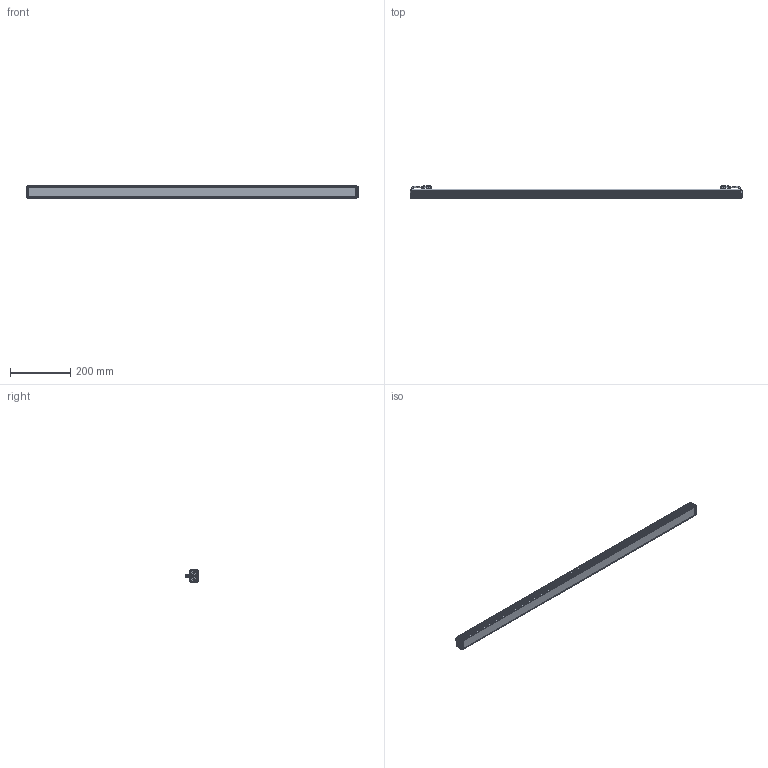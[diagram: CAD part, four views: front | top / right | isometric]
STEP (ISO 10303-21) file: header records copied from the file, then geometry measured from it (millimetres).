
FILE_DESCRIPTION((''),'2;1');
FILE_NAME('MV-LLDS-H-1200-40-W-PL_ASM','2024-04-08T14:39:18',('huguozhe'),(''),'CREO PARAMETRIC BY PTC INC, 2020044','CREO PARAMETRIC BY PTC INC, 2020044','');
FILE_SCHEMA(('AUTOMOTIVE_DESIGN { 1 0 10303 214 1 1 1 1 }'));
Length unit declared in the file: millimetre
Products named in the file (15): DE-15-001245; DE-15-001244_ASM; DE-15-000532; DE-15-000531_ASM; DE-12-002350; TIP-M3X4-4_5X5-SO-ET-07061033; DE-12-002350_ASM; DE-12-001621; SC-KM2X6-BNI-GB819; XIANLAN_HEAD; CABLE_HEAD; CABLE_HEAD_ASM_ASM; 190100852; SC-PM2X6B-JMP; MV-LLDS-H-1200-40-W-PL_ASM
Assembly tree (37 placements, depth 3):
  MV-LLDS-H-1200-40-W-PL_ASM
    DE-15-001244_ASM
      DE-15-001245
    DE-15-000531_ASM
      DE-15-000532
    DE-12-002350_ASM  x2
      DE-12-002350
      TIP-M3X4-4_5X5-SO-ET-07061033
    DE-12-001621
    SC-KM2X6-BNI-GB819  x7
    CABLE_HEAD_ASM_ASM  x2
      XIANLAN_HEAD
      CABLE_HEAD
    190100852  x8
    SC-PM2X6B-JMP  x8
Bounding box: 1098 x 42.65 x 40 mm (x, y, z)
Volume: 1022266.9 mm3; surface area: 510009.3 mm2
Topology: 36 solids, 78 shells, 3216 faces, 8254 edges, 5186 vertices
Faces by surface type: plane 1576, cylinder 701, bspline 480, cone 375, torus 66, sphere 16, extrusion 2
Entity records: 50397 total; most frequent: CARTESIAN_POINT 11891, ORIENTED_EDGE 6512, DIRECTION 6255, EDGE_CURVE 3294, VERTEX_POINT 2111, AXIS2_PLACEMENT_3D 2097, VECTOR 2061, LINE 2060
